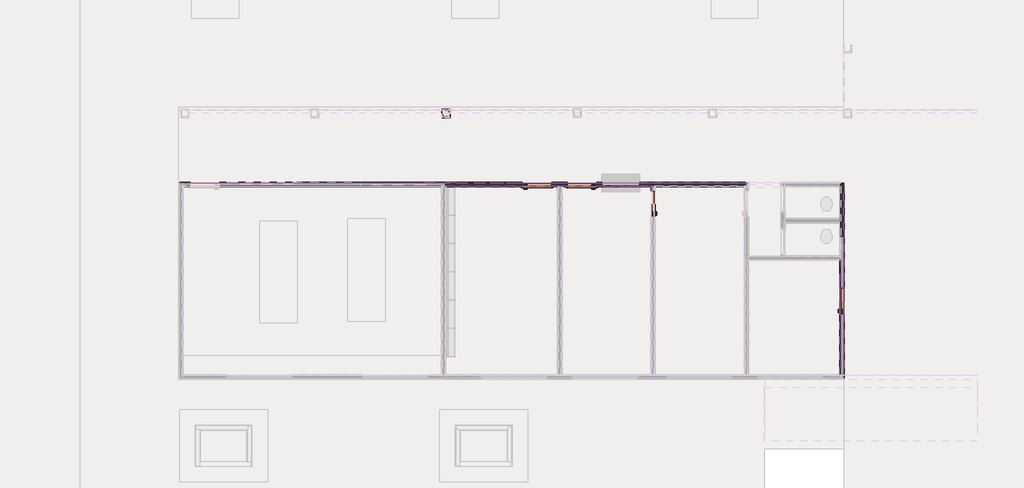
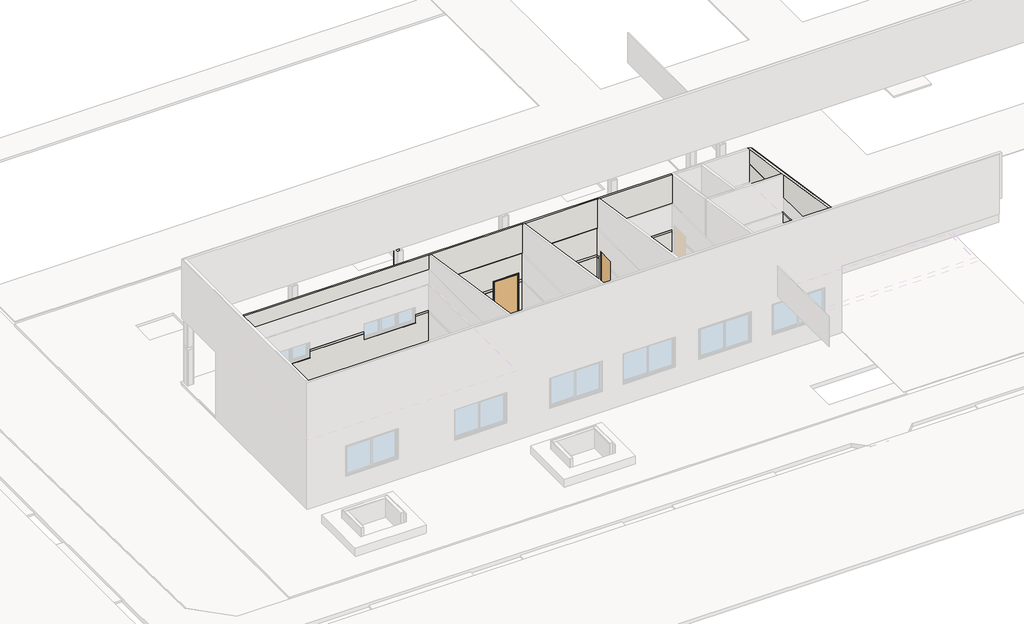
# One storey, part 4 of 28: 25 walls, 8 doors.
"""IFC4 building model written with IfcOpenShell, lengths in millimetres."""

from ifc_helpers import new_model, si_unit, frame, origin, place, context, project, spatial, polyline, outline, extrude, faceted_brep, transform, mapped, element, save
from components import door_29174598, door_95b59213, door_f751b543, door_9ce70d66, pf15_l82cm_5bfc7586, pf15_l82cm_686caa18, pf16_l92cm_bd960443, pf16_l92cm_e792644b

model = new_model("IFC4")

# Units and contexts
model_context = context("Model", 3, world=origin())
ifc_project = project(units=[si_unit("LENGTHUNIT", "METRE", prefix="MILLI")], contexts=[model_context])

# Site, building, storey
site = spatial("IfcSite", under=ifc_project)
building = spatial("IfcBuilding", under=site)
storey = spatial("IfcBuildingStorey", under=building, Name="Térreo", Elevation=0.0)

# Doors
placement = place(None, origin())
door_shape = door_29174598(model_context)
element("IfcDoor", 1, ObjectType="FDE_SO_Soleiras1 : SO14_SoleiraRampadaDesnívelAté2cm_L=14cm_Cimentado 2", at=placement, inside=storey, context=model_context, shape_type="MappedRepresentation", body=[
    mapped(door_shape, transform((-34023.4091269, 6887.0, 0.0), x_axis=(0.0, 1.0, 0.0), y_axis=(-1.0, 0.0, 0.0), z_axis=(0.0, 0.0, 1.0))),
])
door_2_shape = door_95b59213(model_context)
element("IfcDoor", 2, ObjectType="FDE_SO_Soleiras1 : SO14_SoleiraRampadaDesnívelAté2cm_L=14cm_Cimentado 2", at=placement, inside=storey, context=model_context, shape_type="MappedRepresentation", body=[
    mapped(door_2_shape, transform((-40043.4091269, 9983.0, 0.0), x_axis=(0.0, 1.0, 0.0), y_axis=(-1.0, 0.0, 0.0), z_axis=(0.0, 0.0, 1.0))),
])
door_3_shape = door_f751b543(model_context)
element("IfcDoor", 3, ObjectType="FDE_SO_Soleiras1 : SO14_SoleiraRampadaDesnívelAté2cm_L=14cm_Cimentado 2", at=placement, inside=storey, context=model_context, shape_type="MappedRepresentation", body=[
    mapped(door_3_shape, transform((-42296.4091269, 10567.3195082, 0.0), x_axis=(-1.0, 0.0, 0.0), y_axis=(0.0, -1.0, 0.0), z_axis=(0.0, 0.0, 1.0))),
])
door_4_shape = door_9ce70d66(model_context)
element("IfcDoor", 4, ObjectType="FDE_SO_Soleiras1 : SO14_SoleiraRampadaDesnívelAté2cm_L=14cm_Cimentado 2", at=placement, inside=storey, context=model_context, shape_type="MappedRepresentation", body=[
    mapped(door_4_shape, transform((-43730.4091269, 10567.3195082, 0.0), x_axis=(1.0, 0.0, 0.0), y_axis=(0.0, 1.0, 0.0), z_axis=(0.0, 0.0, 1.0))),
])
pf15_l82cm_shape = pf15_l82cm_5bfc7586(model_context)
element("IfcDoor", 5, ObjectType="FDE_PF15_PF16_PF17_PortaemChapadeFerro : PF15_L82cm", at=placement, inside=storey, context=model_context, shape_type="MappedRepresentation", body=[
    mapped(pf15_l82cm_shape, transform((-34028.4091269, 6887.0, 0.0), x_axis=(0.0, 1.0, 0.0), y_axis=(-1.0, 0.0, 0.0), z_axis=(0.0, 0.0, 1.0))),
])
pf15_l82cm_2_shape = pf15_l82cm_686caa18(model_context)
element("IfcDoor", 6, ObjectType="FDE_PF15_PF16_PF17_PortaemChapadeFerro : PF15_L82cm", at=placement, inside=storey, context=model_context, shape_type="MappedRepresentation", body=[
    mapped(pf15_l82cm_2_shape, transform((-40038.4091269, 9983.0, 0.0), x_axis=(0.0, 1.0, 0.0), y_axis=(-1.0, 0.0, 0.0), z_axis=(0.0, 0.0, 1.0))),
])
pf16_l92cm_shape = pf16_l92cm_bd960443(model_context)
element("IfcDoor", 7, ObjectType="FDE_PF15_PF16_PF17_PortaemChapadeFerro : PF16_L92cm", at=placement, inside=storey, context=model_context, shape_type="MappedRepresentation", body=[
    mapped(pf16_l92cm_shape, transform((-42296.4091269, 10532.3195082, 0.0), x_axis=(-1.0, 0.0, 0.0), y_axis=(0.0, -1.0, 0.0), z_axis=(0.0, 0.0, 1.0))),
])
pf16_l92cm_2_shape = pf16_l92cm_e792644b(model_context)
element("IfcDoor", 8, ObjectType="FDE_PF15_PF16_PF17_PortaemChapadeFerro : PF16_L92cm", at=placement, inside=storey, context=model_context, shape_type="MappedRepresentation", body=[
    mapped(pf16_l92cm_2_shape, transform((-43730.4091269, 10532.3195082, 0.0), x_axis=(1.0, 0.0, 0.0), y_axis=(0.0, 1.0, 0.0), z_axis=(0.0, 0.0, 1.0))),
])

# Walls
element("IfcWall", 9, ObjectType="FDE_S712_AlvenariadeTijoloCerâmico/Baiano_Alvenaria_9cm - Existente", at=placement, inside=storey, context=model_context, shape_type="Brep", body=[
    faceted_brep([(-37113.4091269, 10547.3195082, 0.0), (-37113.4091269, 10547.3195082, 220.0), (-37113.4091269, 10547.3195082, 1731.0528047), (-37113.4091269, 10547.3195082, 1824.9435125), (-37113.4091269, 10547.3195082, 4103.4020738), (-39993.4091269, 10547.3195082, 4103.4020738), (-40083.4091269, 10547.3195082, 4103.4020738), (-42963.4091269, 10547.3195082, 4103.4020738), (-43053.4091269, 10547.3195082, 4103.4020738), (-55003.4091269, 10547.3195082, 4103.4020738), (-55003.4091269, 10547.3195082, 1731.0528047), (-55003.4091269, 10547.3195082, 220.0), (-55003.4091269, 10547.3195082, 0.0), (-54752.4091269, 10547.3195082, 0.0), (-54752.4091269, 10547.3195082, 220.0), (-54752.4091269, 10547.3195082, 1731.0528047), (-54752.4091269, 10547.3195082, 2112.0), (-53818.4091269, 10547.3195082, 2112.0), (-53818.4091269, 10547.3195082, 1824.9435125), (-53818.4091269, 10547.3195082, 1731.0528047), (-53818.4091269, 10547.3195082, 220.0), (-53818.4091269, 10547.3195082, 0.0), (-44197.4091269, 10547.3195082, 0.0), (-44197.4091269, 10547.3195082, 220.0), (-44197.4091269, 10547.3195082, 1731.0528047), (-44197.4091269, 10547.3195082, 1824.9435125), (-44197.4091269, 10547.3195082, 2112.0), (-43263.4091269, 10547.3195082, 2112.0), (-43263.4091269, 10547.3195082, 1824.9435125), (-43263.4091269, 10547.3195082, 1731.0528047), (-43263.4091269, 10547.3195082, 220.0), (-43263.4091269, 10547.3195082, 0.0), (-43053.4091269, 10547.3195082, 0.0), (-42963.4091269, 10547.3195082, 0.0), (-42763.4091269, 10547.3195082, 0.0), (-42763.4091269, 10547.3195082, 220.0), (-42763.4091269, 10547.3195082, 1731.0528047), (-42763.4091269, 10547.3195082, 1824.9435125), (-42763.4091269, 10547.3195082, 2112.0), (-41829.4091269, 10547.3195082, 2112.0), (-41829.4091269, 10547.3195082, 1824.9435125), (-41829.4091269, 10547.3195082, 1731.0528047), (-41829.4091269, 10547.3195082, 220.0), (-41829.4091269, 10547.3195082, 0.0), (-40083.4091269, 10547.3195082, 0.0), (-39993.4091269, 10547.3195082, 0.0), (-40463.4091284, 10547.3195082, 2112.0), (-40463.4091284, 10547.3195082, 1190.0), (-41663.4091276, 10547.3195082, 1190.0), (-41663.4091276, 10547.3195082, 2112.0), (-49348.4091269, 10547.3195082, 1465.0), (-49348.4091269, 10547.3195082, 1731.0528047), (-49348.4091269, 10547.3195082, 1824.9435125), (-49348.4091269, 10547.3195082, 2135.0), (-47278.4091269, 10547.3195082, 2135.0), (-47278.4091269, 10547.3195082, 1824.9435125), (-47278.4091269, 10547.3195082, 1731.0528047), (-47278.4091269, 10547.3195082, 1465.0), (-51458.4091269, 10547.3195082, 2135.0), (-51458.4091269, 10547.3195082, 1824.9435125), (-51458.4091269, 10547.3195082, 1731.0528047), (-51458.4091269, 10547.3195082, 1465.0), (-53528.4091269, 10547.3195082, 1465.0), (-53528.4091269, 10547.3195082, 1731.0528047), (-53528.4091269, 10547.3195082, 1824.9435125), (-53528.4091269, 10547.3195082, 2135.0), (-37113.4091269, 10637.3195082, 4089.9020738), (-37113.4091269, 10637.3195082, 3944.0), (-37113.4091269, 10637.3195082, 1824.9435125), (-37113.4091269, 10637.3195082, 1731.0528047), (-37113.4091269, 10637.3195082, 220.0), (-37113.4091269, 10637.3195082, 0.0), (-41829.4091269, 10637.3195082, 0.0), (-41829.4091269, 10637.3195082, 220.0), (-41829.4091269, 10637.3195082, 1731.0528047), (-41829.4091269, 10637.3195082, 1824.9435125), (-41829.4091269, 10637.3195082, 2112.0), (-42763.4091269, 10637.3195082, 2112.0), (-42763.4091269, 10637.3195082, 1824.9435125), (-42763.4091269, 10637.3195082, 1731.0528047), (-42763.4091269, 10637.3195082, 220.0), (-42763.4091269, 10637.3195082, 0.0), (-43263.4091269, 10637.3195082, 0.0), (-43263.4091269, 10637.3195082, 220.0), (-43263.4091269, 10637.3195082, 1731.0528047), (-43263.4091269, 10637.3195082, 1824.9435125), (-43263.4091269, 10637.3195082, 2112.0), (-44197.4091269, 10637.3195082, 2112.0), (-44197.4091269, 10637.3195082, 1824.9435125), (-44197.4091269, 10637.3195082, 1731.0528047), (-44197.4091269, 10637.3195082, 220.0), (-44197.4091269, 10637.3195082, 0.0), (-53818.4091269, 10637.3195082, 0.0), (-53818.4091269, 10637.3195082, 220.0), (-53818.4091269, 10637.3195082, 1731.0528047), (-53818.4091269, 10637.3195082, 1824.9435125), (-53818.4091269, 10637.3195082, 2112.0), (-54752.4091269, 10637.3195082, 2112.0), (-54752.4091269, 10637.3195082, 1824.9435125), (-54752.4091269, 10637.3195082, 1731.0528047), (-54752.4091269, 10637.3195082, 220.0), (-54752.4091269, 10637.3195082, 0.0), (-55003.4091269, 10637.3195082, 0.0), (-55003.4091269, 10637.3195082, 1824.9435125), (-55003.4091269, 10637.3195082, 3944.0), (-55003.4091269, 10637.3195082, 4089.9020738), (-51458.4091269, 10637.3195082, 1465.0), (-51458.4091269, 10637.3195082, 1731.0528047), (-51458.4091269, 10637.3195082, 1824.9435125), (-51458.4091269, 10637.3195082, 2135.0), (-53528.4091269, 10637.3195082, 2135.0), (-53528.4091269, 10637.3195082, 1824.9435125), (-53528.4091269, 10637.3195082, 1731.0528047), (-53528.4091269, 10637.3195082, 1465.0), (-40463.4091284, 10637.3195082, 1190.0), (-40463.4091284, 10637.3195082, 1731.0528047), (-40463.4091284, 10637.3195082, 1824.9435125), (-40463.4091284, 10637.3195082, 2112.0), (-41663.4091276, 10637.3195082, 2112.0), (-41663.4091276, 10637.3195082, 1824.9435125), (-41663.4091276, 10637.3195082, 1731.0528047), (-41663.4091276, 10637.3195082, 1190.0), (-49348.4091269, 10637.3195082, 2135.0), (-49348.4091269, 10637.3195082, 1824.9435125), (-49348.4091269, 10637.3195082, 1731.0528047), (-49348.4091269, 10637.3195082, 1465.0), (-47278.4091269, 10637.3195082, 1465.0), (-47278.4091269, 10637.3195082, 1731.0528047), (-47278.4091269, 10637.3195082, 1824.9435125), (-47278.4091269, 10637.3195082, 2135.0), (-37113.4091269, 10631.3195082, 4090.8020738)], [[[0, 1, 2, 3, 4, 5, 6, 7, 8, 9, 10, 11, 12, 13, 14, 15, 16, 17, 18, 19, 20, 21, 22, 23, 24, 25, 26, 27, 28, 29, 30, 31, 32, 33, 34, 35, 36, 37, 38, 39, 40, 41, 42, 43, 44, 45], [46, 47, 48, 49], [50, 51, 52, 53, 54, 55, 56, 57], [58, 59, 60, 61, 62, 63, 64, 65]], [[66, 67, 68, 69, 70, 71, 72, 73, 74, 75, 76, 77, 78, 79, 80, 81, 82, 83, 84, 85, 86, 87, 88, 89, 90, 91, 92, 93, 94, 95, 96, 97, 98, 99, 100, 101, 102, 103, 104, 105], [106, 107, 108, 109, 110, 111, 112, 113], [114, 115, 116, 117, 118, 119, 120, 121], [122, 123, 124, 125, 126, 127, 128, 129]], [[4, 3, 2, 1, 0, 71, 70, 69, 68, 67, 66, 130]], [[9, 8, 7, 6, 5, 4, 130, 66, 105]], [[97, 16, 15, 14, 13, 101, 100, 99, 98]], [[16, 97, 96, 17]], [[17, 96, 95, 94, 93, 92, 21, 20, 19, 18]], [[27, 86, 85, 84, 83, 82, 31, 30, 29, 28]], [[86, 27, 26, 87]], [[87, 26, 25, 24, 23, 22, 91, 90, 89, 88]], [[77, 38, 37, 36, 35, 34, 81, 80, 79, 78]], [[38, 77, 76, 39]], [[39, 76, 75, 74, 73, 72, 43, 42, 41, 40]], [[106, 61, 60, 59, 58, 109, 108, 107]], [[109, 58, 65, 110]], [[110, 65, 64, 63, 62, 113, 112, 111]], [[61, 106, 113, 62]], [[13, 12, 102, 101]], [[22, 21, 92, 91]], [[34, 33, 32, 31, 82, 81]], [[0, 45, 44, 43, 72, 71]], [[47, 46, 117, 116, 115, 114]], [[48, 47, 114, 121]], [[49, 48, 121, 120, 119, 118]], [[46, 49, 118, 117]], [[50, 125, 124, 123, 122, 53, 52, 51]], [[53, 122, 129, 54]], [[54, 129, 128, 127, 126, 57, 56, 55]], [[125, 50, 57, 126]], [[102, 12, 11, 10, 9, 105, 104, 103]]]),
])
element("IfcWall", 10, ObjectType="FDE_S712_AlvenariadeTijoloCerâmico/Baiano_Alvenaria_9cm - Existente", at=placement, inside=storey, context=model_context, shape_type="Brep", body=[
    faceted_brep([(-34073.4091269, 4520.0, 0.0), (-34073.4091269, 4520.0, 220.0), (-34073.4091269, 4520.0, 1731.0528047), (-34073.4091269, 4520.0, 5007.5), (-34073.4091269, 8209.2493611, 4454.1125958), (-34073.4091269, 8299.2493611, 4440.6125958), (-34073.4091269, 10541.3195082, 4104.3020738), (-34073.4091269, 10631.3195082, 4090.8020738), (-34073.4091269, 10631.3195082, 0.0), (-34073.4091269, 10541.3195082, 0.0), (-34073.4091269, 9514.6246806, 0.0), (-34073.4091269, 9484.6246806, 0.0), (-34073.4091269, 9394.6246806, 0.0), (-34073.4091269, 8299.2493611, 0.0), (-34073.4091269, 8209.2493611, 0.0), (-34073.4091269, 7304.0, 0.0), (-34073.4091269, 7304.0, 220.0), (-34073.4091269, 7304.0, 1731.0528047), (-34073.4091269, 7304.0, 1824.9435125), (-34073.4091269, 7304.0, 2112.0), (-34073.4091269, 6470.0, 2112.0), (-34073.4091269, 6470.0, 1824.9435125), (-34073.4091269, 6470.0, 1731.0528047), (-34073.4091269, 6470.0, 220.0), (-34073.4091269, 6470.0, 0.0), (-33983.4091269, 4520.0000015, 5007.4999998), (-33983.4091269, 4520.0000007, 2530.0), (-33983.4091269, 4520.0000005, 1731.0528047), (-33983.4091269, 4520.0, 0.0), (-33983.4091269, 6470.0, 0.0), (-33983.4091269, 6470.0, 1731.0528047), (-33983.4091269, 6470.0, 1824.9435125), (-33983.4091269, 6470.0, 2112.0), (-33983.4091269, 7304.0, 2112.0), (-33983.4091269, 7304.0, 1824.9435125), (-33983.4091269, 7304.0, 1731.0528047), (-33983.4091269, 7304.0, 0.0), (-33983.4091269, 10541.3195082, 0.0), (-33983.4091269, 10631.3195082, 0.0), (-33983.4091269, 10631.3195082, 4090.8020738), (-33983.4091269, 10541.3195082, 4104.3020738), (-33983.4091269, 4541.0, 5004.35)], [[[0, 1, 2, 3, 4, 5, 6, 7, 8, 9, 10, 11, 12, 13, 14, 15, 16, 17, 18, 19, 20, 21, 22, 23, 24]], [[25, 26, 27, 28, 29, 30, 31, 32, 33, 34, 35, 36, 37, 38, 39, 40, 41]], [[28, 0, 24, 29]], [[8, 38, 37, 36, 15, 14, 13, 12, 11, 10, 9]], [[0, 28, 27, 26, 25, 3, 2, 1]], [[39, 7, 6, 5, 4, 3, 25, 41, 40]], [[33, 19, 18, 17, 16, 15, 36, 35, 34]], [[19, 33, 32, 20]], [[20, 32, 31, 30, 29, 24, 23, 22, 21]], [[38, 8, 7, 39]]]),
])
element("IfcWall", 11, ObjectType="Revestimento Cerâmico 10x10cm", at=placement, inside=storey, context=model_context, shape_type="Brep", body=[
    faceted_brep([(-55093.4091269, 10637.3195082, 1731.0528047), (-55093.4091269, 10637.3195082, 220.0), (-54752.4091269, 10637.3195082, 220.0), (-54752.4091269, 10637.3195082, 1731.0528047), (-55093.4091269, 10667.3195082, 220.0), (-55093.4091269, 10667.3195082, 1731.0528047), (-54752.4091269, 10667.3195082, 1731.0528047), (-54752.4091269, 10667.3195082, 220.0), (-55093.4091269, 10652.3195082, 220.0)], [[[0, 1, 2, 3]], [[4, 5, 6, 7]], [[1, 0, 5, 4, 8]], [[1, 8, 4, 7, 2]], [[5, 0, 3, 6]], [[3, 2, 7, 6]]]),
    faceted_brep([(-37113.4091269, 10637.3195082, 1731.0528047), (-40463.4091284, 10637.3195082, 1731.0528047), (-40463.4091284, 10637.3195082, 1190.0), (-41663.4091276, 10637.3195082, 1190.0), (-41663.4091276, 10637.3195082, 1731.0528047), (-41829.4091269, 10637.3195082, 1731.0528047), (-41829.4091269, 10637.3195082, 220.0), (-37113.4091269, 10637.3195082, 220.0), (-40463.4091284, 10667.3195082, 1731.0528047), (-37113.4091269, 10667.3195082, 1731.0528047), (-37113.4091269, 10667.3195082, 220.0), (-41829.4091269, 10667.3195082, 220.0), (-41829.4091269, 10667.3195082, 1731.0528047), (-41663.4091276, 10667.3195082, 1731.0528047), (-41663.4091276, 10667.3195082, 1190.0), (-40463.4091284, 10667.3195082, 1190.0)], [[[0, 1, 2, 3, 4, 5, 6, 7]], [[8, 9, 10, 11, 12, 13, 14, 15]], [[6, 5, 12, 11]], [[6, 11, 10, 7]], [[1, 0, 9, 8]], [[2, 1, 8, 15]], [[3, 2, 15, 14]], [[4, 3, 14, 13]], [[4, 13, 12, 5]], [[0, 7, 10, 9]]]),
    faceted_brep([(-43263.4091269, 10637.3195082, 1731.0528047), (-43263.4091269, 10637.3195082, 220.0), (-42763.4091269, 10637.3195082, 220.0), (-42763.4091269, 10637.3195082, 1731.0528047), (-43263.4091269, 10667.3195082, 220.0), (-43263.4091269, 10667.3195082, 1731.0528047), (-42763.4091269, 10667.3195082, 1731.0528047), (-42763.4091269, 10667.3195082, 220.0)], [[[0, 1, 2, 3]], [[4, 5, 6, 7]], [[1, 0, 5, 4]], [[3, 2, 7, 6]], [[1, 4, 7, 2]], [[5, 0, 3, 6]]]),
    faceted_brep([(-44197.4091269, 10637.3195082, 220.0), (-44197.4091269, 10637.3195082, 1731.0528047), (-44207.4091269, 10637.3195082, 1731.0528047), (-45943.4091269, 10637.3195082, 1731.0528047), (-47278.4091269, 10637.3195082, 1731.0528047), (-47278.4091269, 10637.3195082, 1465.0), (-49348.4091269, 10637.3195082, 1465.0), (-49348.4091269, 10637.3195082, 1731.0528047), (-51458.4091269, 10637.3195082, 1731.0528047), (-51458.4091269, 10637.3195082, 1465.0), (-53528.4091269, 10637.3195082, 1465.0), (-53528.4091269, 10637.3195082, 1731.0528047), (-53818.4091269, 10637.3195082, 1731.0528047), (-53818.4091269, 10637.3195082, 220.0), (-44197.4091269, 10667.3195082, 1731.0528047), (-44197.4091269, 10667.3195082, 220.0), (-53818.4091269, 10667.3195082, 220.0), (-53818.4091269, 10667.3195082, 1731.0528047), (-53528.4091269, 10667.3195082, 1731.0528047), (-53528.4091269, 10667.3195082, 1465.0), (-51458.4091269, 10667.3195082, 1465.0), (-51458.4091269, 10667.3195082, 1731.0528047), (-49348.4091269, 10667.3195082, 1731.0528047), (-49348.4091269, 10667.3195082, 1465.0), (-47278.4091269, 10667.3195082, 1465.0), (-47278.4091269, 10667.3195082, 1731.0528047)], [[[0, 1, 2, 3, 4, 5, 6, 7, 8, 9, 10, 11, 12, 13]], [[14, 15, 16, 17, 18, 19, 20, 21, 22, 23, 24, 25]], [[1, 0, 15, 14]], [[20, 9, 8, 21]], [[10, 19, 18, 11]], [[9, 20, 19, 10]], [[6, 23, 22, 7]], [[24, 5, 4, 25]], [[23, 6, 5, 24]], [[15, 0, 13, 16]], [[1, 14, 25, 4, 3, 2]], [[21, 8, 7, 22]], [[11, 18, 17, 12]], [[13, 12, 17, 16]]]),
])
element("IfcWall", 12, ObjectType="Pardes Externas_Pintura Acrílica Branco Neve", at=placement, inside=storey, context=model_context, shape_type="Brep", body=[
    faceted_brep([(-37002.4091269, 10652.3195082, 1824.9435125), (-37023.4091269, 10652.3195082, 1824.9435125), (-37113.4091269, 10652.3195082, 1824.9435125), (-40463.4091284, 10652.3195082, 1824.9435125), (-40463.4091284, 10652.3195082, 2112.0), (-41663.4091276, 10652.3195082, 2112.0), (-41663.4091276, 10652.3195082, 1824.9435125), (-41829.4091269, 10652.3195082, 1824.9435125), (-41829.4091269, 10652.3195082, 2112.0), (-42763.4091269, 10652.3195082, 2112.0), (-42763.4091269, 10652.3195082, 1824.9435125), (-43263.4091269, 10652.3195082, 1824.9435125), (-43263.4091269, 10652.3195082, 2112.0), (-44197.4091269, 10652.3195082, 2112.0), (-44197.4091269, 10652.3195082, 1824.9435125), (-47278.4091269, 10652.3195082, 1824.9435125), (-47278.4091269, 10652.3195082, 2135.0), (-49348.4091269, 10652.3195082, 2135.0), (-49348.4091269, 10652.3195082, 1824.9435125), (-51458.4091269, 10652.3195082, 1824.9435125), (-51458.4091269, 10652.3195082, 2135.0), (-53528.4091269, 10652.3195082, 2135.0), (-53528.4091269, 10652.3195082, 1824.9435125), (-53818.4091269, 10652.3195082, 1824.9435125), (-53818.4091269, 10652.3195082, 2112.0), (-54752.4091269, 10652.3195082, 2112.0), (-54752.4091269, 10652.3195082, 1824.9435125), (-55093.4091269, 10652.3195082, 1824.9435125), (-55093.4091269, 10652.3195082, 2900.0), (-55093.4091269, 10652.3195082, 3944.0), (-37002.4091269, 10652.3195082, 3944.0), (-55093.4091269, 10631.3195082, 3944.0), (-55093.4091269, 10631.3195082, 1824.9435125), (-55003.4091269, 10631.3195082, 1824.9435125), (-55003.4091269, 10631.3195082, 3944.0), (-37002.4091269, 10631.3195082, 1824.9435125), (-37002.4091269, 10631.3195082, 3944.0), (-37023.4091269, 10631.3195082, 3944.0), (-37113.4091269, 10631.3195082, 3944.0), (-37113.4091269, 10631.3195082, 1824.9435125), (-37023.4091269, 10631.3195082, 1824.9435125), (-55003.4091269, 10637.3195082, 3944.0), (-55003.4091269, 10637.3195082, 1824.9435125), (-54752.4091269, 10637.3195082, 1824.9435125), (-54752.4091269, 10637.3195082, 1840.5067599), (-54752.4091269, 10637.3195082, 2112.0), (-53818.4091269, 10637.3195082, 2112.0), (-53818.4091269, 10637.3195082, 1824.9435125), (-53528.4091269, 10637.3195082, 1824.9435125), (-53528.4091269, 10637.3195082, 2135.0), (-51458.4091269, 10637.3195082, 2135.0), (-51458.4091269, 10637.3195082, 1824.9435125), (-49348.4091269, 10637.3195082, 1824.9435125), (-49348.4091269, 10637.3195082, 2135.0), (-47278.4091269, 10637.3195082, 2135.0), (-47278.4091269, 10637.3195082, 1824.9435125), (-45943.4091269, 10637.3195082, 1824.9435125), (-44207.4091269, 10637.3195082, 1824.9435125), (-44197.4091269, 10637.3195082, 1824.9435125), (-44197.4091269, 10637.3195082, 2112.0), (-43263.4091269, 10637.3195082, 2112.0), (-43263.4091269, 10637.3195082, 1824.9435125), (-42763.4091269, 10637.3195082, 1824.9435125), (-42763.4091269, 10637.3195082, 2112.0), (-41829.4091269, 10637.3195082, 2112.0), (-41829.4091269, 10637.3195082, 1824.9435125), (-41663.4091276, 10637.3195082, 1824.9435125), (-41663.4091276, 10637.3195082, 2112.0), (-40463.4091284, 10637.3195082, 2112.0), (-40463.4091284, 10637.3195082, 1824.9435125), (-37113.4091269, 10637.3195082, 1824.9435125), (-37113.4091269, 10637.3195082, 3944.0), (-55093.4091269, 10637.3195082, 1824.9435125)], [[[0, 1, 2, 3, 4, 5, 6, 7, 8, 9, 10, 11, 12, 13, 14, 15, 16, 17, 18, 19, 20, 21, 22, 23, 24, 25, 26, 27, 28, 29, 30]], [[31, 32, 33, 34]], [[35, 36, 37, 38, 39, 40]], [[41, 42, 43, 44, 45, 46, 47, 48, 49, 50, 51, 52, 53, 54, 55, 56, 57, 58, 59, 60, 61, 62, 63, 64, 65, 66, 67, 68, 69, 70, 71]], [[26, 25, 45, 44, 43]], [[25, 24, 46, 45]], [[24, 23, 47, 46]], [[12, 11, 61, 60]], [[13, 12, 60, 59]], [[14, 13, 59, 58]], [[10, 9, 63, 62]], [[9, 8, 64, 63]], [[8, 7, 65, 64]], [[20, 19, 51, 50]], [[21, 20, 50, 49]], [[22, 21, 49, 48]], [[18, 17, 53, 52]], [[17, 16, 54, 53]], [[16, 15, 55, 54]], [[3, 2, 1, 0, 35, 40, 39, 70, 69]], [[29, 28, 27, 72, 32, 31]], [[30, 29, 31, 34, 41, 71, 38, 37, 36]], [[4, 3, 69, 68]], [[5, 4, 68, 67]], [[6, 5, 67, 66]], [[11, 10, 62, 61]], [[7, 6, 66, 65]], [[23, 22, 48, 47]], [[19, 18, 52, 51]], [[15, 14, 58, 57, 56, 55]], [[32, 72, 27, 26, 43, 42, 33]], [[71, 70, 39, 38]], [[30, 36, 35, 0]], [[42, 41, 34, 33]]]),
])
element("IfcWall", 13, ObjectType="Pardes Externas_Pintura Acrílica Branco Neve", at=placement, inside=storey, context=model_context, shape_type="Brep", body=[
    faceted_brep([(-33983.4091269, 4520.0000005, 1824.9435125), (-33983.4091269, 4520.0000005, 5007.4999999), (-33983.4091269, 10541.3195082, 4104.3020738), (-33983.4091269, 10541.3195082, 1824.9435125), (-33983.4091269, 7304.0, 1824.9435125), (-33983.4091269, 7304.0, 2112.0), (-33983.4091269, 6470.0, 2112.0), (-33983.4091269, 6470.0, 1824.9435125), (-33962.4091269, 4520.0000015, 5007.4999998), (-33962.4091269, 4520.0000005, 1824.9435125), (-33962.4091269, 6470.0, 1824.9435125), (-33962.4091269, 6470.0, 2112.0), (-33962.4091269, 7304.0, 2112.0), (-33962.4091269, 7304.0, 1824.9435125), (-33962.4091269, 10541.3195082, 1824.9435125), (-33962.4091269, 10541.3195082, 4104.3020738)], [[[0, 1, 2, 3, 4, 5, 6, 7]], [[8, 9, 10, 11, 12, 13, 14, 15]], [[9, 0, 7, 10]], [[3, 14, 13, 4]], [[0, 9, 8, 1]], [[2, 1, 8, 15]], [[12, 5, 4, 13]], [[5, 12, 11, 6]], [[6, 11, 10, 7]], [[3, 2, 15, 14]]]),
])
element("IfcWall", 14, ObjectType="Revestimento Cerâmico 10x10cm", at=placement, inside=storey, context=model_context, shape_type="Brep", body=[
    faceted_brep([(-33953.4091269, 4430.0000017, 1731.0528047), (-33953.4091269, 4430.0000017, 0.0), (-33953.4091269, 6470.0, 0.0), (-33953.4091269, 6470.0, 1731.0528047), (-33953.4091269, 4520.0000005, 1731.0528047), (-33983.4091269, 4430.0000017, 0.0), (-33983.4091269, 4430.0000017, 1731.0528047), (-33983.4091269, 4520.0000005, 1731.0528047), (-33983.4091269, 6470.0, 1731.0528047), (-33983.4091269, 6470.0, 0.0), (-33983.4091269, 4520.0000005, 0.0)], [[[0, 1, 2, 3, 4]], [[5, 6, 7, 8, 9, 10]], [[1, 5, 10, 9, 2]], [[6, 0, 4, 3, 8, 7]], [[1, 0, 6, 5]], [[3, 2, 9, 8]]]),
    faceted_brep([(-33953.4091269, 10541.3195082, 0.0), (-33953.4091269, 10541.3195082, 1731.0528047), (-33953.4091269, 7304.0, 1731.0528047), (-33953.4091269, 7304.0, 0.0), (-33983.4091269, 10541.3195082, 1731.0528047), (-33983.4091269, 10541.3195082, 0.0), (-33983.4091269, 7304.0, 0.0), (-33983.4091269, 7304.0, 1731.0528047)], [[[0, 1, 2, 3]], [[4, 5, 6, 7]], [[5, 0, 3, 6]], [[1, 4, 7, 2]], [[3, 2, 7, 6]], [[1, 0, 5, 4]]]),
])
element("IfcWall", 15, ObjectType="Faixa - Revestimento Cerâmico Verde Folha 10x10cm", at=placement, inside=storey, context=model_context, shape_type="Brep", body=[
    faceted_brep([(-33983.4091269, 4520.0000005, 1731.0528047), (-33983.4091269, 4520.0000005, 1824.9435125), (-33983.4091269, 6470.0, 1824.9435125), (-33983.4091269, 6470.0, 1731.0528047), (-33953.4091269, 4520.0000005, 1824.9435125), (-33953.4091269, 4520.0000005, 1731.0528047), (-33953.4091269, 6470.0, 1731.0528047), (-33953.4091269, 6470.0, 1824.9435125), (-33962.4091269, 4520.0000005, 1824.9435125)], [[[0, 1, 2, 3]], [[4, 5, 6, 7]], [[5, 0, 3, 6]], [[1, 8, 4, 7, 2]], [[1, 0, 5, 4, 8]], [[3, 2, 7, 6]]]),
    faceted_brep([(-33983.4091269, 10541.3195082, 1824.9435125), (-33983.4091269, 10541.3195082, 1731.0528047), (-33983.4091269, 7304.0, 1731.0528047), (-33983.4091269, 7304.0, 1824.9435125), (-33953.4091269, 10541.3195082, 1731.0528047), (-33953.4091269, 10541.3195082, 1824.9435125), (-33953.4091269, 7304.0, 1824.9435125), (-33953.4091269, 7304.0, 1731.0528047), (-33962.4091269, 10541.3195082, 1824.9435125)], [[[0, 1, 2, 3]], [[4, 5, 6, 7]], [[1, 4, 7, 2]], [[5, 8, 0, 3, 6]], [[3, 2, 7, 6]], [[1, 0, 8, 5, 4]]]),
])
element("IfcWall", 16, ObjectType="Pardes Externas_Pintura Acrílica Branco Neve", at=placement, inside=storey, context=model_context, shape_type="Brep", body=[
    faceted_brep([(-46744.4091269, 12950.0, 1794.0), (-46723.4091269, 12950.0, 1794.0), (-46523.4091269, 12950.0, 1794.0), (-46502.4091269, 12950.0, 1794.0), (-46502.4091269, 12950.0, 2900.0), (-46523.4091269, 12950.0, 2900.0), (-46723.4091269, 12950.0, 2900.0), (-46744.4091269, 12950.0, 2900.0), (-46744.4091269, 12971.0, 1794.0), (-46744.4091269, 12971.0, 2900.0), (-46502.4091269, 12971.0, 2900.0), (-46502.4091269, 12971.0, 1794.0)], [[[0, 1, 2, 3, 4, 5, 6, 7]], [[8, 9, 10, 11]], [[3, 2, 1, 0, 8, 11]], [[7, 6, 5, 4, 10, 9]], [[0, 7, 9, 8]], [[4, 3, 11, 10]]]),
])
element("IfcWall", 17, ObjectType="Revestimento Cerâmico 10x10cm", at=placement, inside=storey, context=model_context, shape_type="Brep", body=[
    faceted_brep([(-46753.4091269, 12950.0, 194.0), (-46723.4091269, 12950.0, 194.0), (-46523.4091269, 12950.0, 194.0), (-46493.4091269, 12950.0, 194.0), (-46493.4091269, 12950.0, 1694.0), (-46523.4091269, 12950.0, 1694.0), (-46723.4091269, 12950.0, 1694.0), (-46753.4091269, 12950.0, 1694.0), (-46753.4091269, 12980.0, 194.0), (-46753.4091269, 12980.0, 1694.0), (-46493.4091269, 12980.0, 1694.0), (-46493.4091269, 12980.0, 194.0)], [[[0, 1, 2, 3, 4, 5, 6, 7]], [[8, 9, 10, 11]], [[3, 2, 1, 0, 8, 11]], [[7, 6, 5, 4, 10, 9]], [[0, 7, 9, 8]], [[4, 3, 11, 10]]]),
])
element("IfcWall", 18, ObjectType="Revestimento Cerâmico 10x10cm", at=placement, inside=storey, context=model_context, shape_type="Brep", body=[
    faceted_brep([(-46723.4091269, 12720.0, 194.0), (-46723.4091269, 12750.0, 194.0), (-46723.4091269, 12950.0, 194.0), (-46723.4091269, 12950.0, 1694.0), (-46723.4091269, 12750.0, 1694.0), (-46723.4091269, 12720.0, 1694.0), (-46753.4091269, 12720.0, 194.0), (-46753.4091269, 12720.0, 1694.0), (-46753.4091269, 12950.0, 1694.0), (-46753.4091269, 12950.0, 194.0)], [[[0, 1, 2, 3, 4, 5]], [[6, 7, 8, 9]], [[2, 1, 0, 6, 9]], [[5, 4, 3, 8, 7]], [[3, 2, 9, 8]], [[0, 5, 7, 6]]]),
])
element("IfcWall", 19, ObjectType="Revestimento Cerâmico 10x10cm", at=placement, inside=storey, context=model_context, shape_type="Brep", body=[
    faceted_brep([(-46523.4091269, 12950.0, 194.0), (-46523.4091269, 12750.0, 194.0), (-46523.4091269, 12720.0, 194.0), (-46523.4091269, 12720.0, 1694.0), (-46523.4091269, 12750.0, 1694.0), (-46523.4091269, 12950.0, 1694.0), (-46493.4091269, 12950.0, 194.0), (-46493.4091269, 12950.0, 1694.0), (-46493.4091269, 12720.0, 1694.0), (-46493.4091269, 12720.0, 194.0)], [[[0, 1, 2, 3, 4, 5]], [[6, 7, 8, 9]], [[2, 1, 0, 6, 9]], [[5, 4, 3, 8, 7]], [[0, 5, 7, 6]], [[3, 2, 9, 8]]]),
])
element("IfcWall", 20, ObjectType="Revestimento Cerâmico 10x10cm", at=placement, inside=storey, context=model_context, shape_type="SweptSolid", body=[
    extrude(outline(polyline([(-46523.4091269, 12720.0), (-46723.4091269, 12720.0), (-46723.4091269, 12750.0), (-46523.4091269, 12750.0), (-46523.4091269, 12720.0)])), frame((0.0, 0.0, 194.0), z_axis=(0.0, 0.0, 1.0), x_axis=(1.0, 0.0, 0.0)), (0.0, 0.0, 1.0), 1500.0),
])
element("IfcWall", 21, ObjectType="Faixa - Revestimento Cerâmico Verde Folha 10x10cm", at=placement, inside=storey, context=model_context, shape_type="Brep", body=[
    faceted_brep([(-46753.4091269, 12950.0, 1694.0), (-46723.4091269, 12950.0, 1694.0), (-46523.4091269, 12950.0, 1694.0), (-46493.4091269, 12950.0, 1694.0), (-46493.4091269, 12950.0, 1794.0), (-46523.4091269, 12950.0, 1794.0), (-46723.4091269, 12950.0, 1794.0), (-46753.4091269, 12950.0, 1794.0), (-46753.4091269, 12980.0, 1694.0), (-46753.4091269, 12980.0, 1794.0), (-46493.4091269, 12980.0, 1794.0), (-46493.4091269, 12980.0, 1694.0)], [[[0, 1, 2, 3, 4, 5, 6, 7]], [[8, 9, 10, 11]], [[3, 2, 1, 0, 8, 11]], [[7, 6, 5, 4, 10, 9]], [[4, 3, 11, 10]], [[0, 7, 9, 8]]]),
])
element("IfcWall", 22, ObjectType="Faixa - Revestimento Cerâmico Verde Folha 10x10cm", at=placement, inside=storey, context=model_context, shape_type="Brep", body=[
    faceted_brep([(-46523.4091269, 12950.0, 1694.0), (-46523.4091269, 12750.0, 1694.0), (-46523.4091269, 12720.0, 1694.0), (-46523.4091269, 12720.0, 1794.0), (-46523.4091269, 12750.0, 1794.0), (-46523.4091269, 12950.0, 1794.0), (-46493.4091269, 12950.0, 1694.0), (-46493.4091269, 12950.0, 1794.0), (-46493.4091269, 12720.0, 1794.0), (-46493.4091269, 12720.0, 1694.0)], [[[0, 1, 2, 3, 4, 5]], [[6, 7, 8, 9]], [[2, 1, 0, 6, 9]], [[5, 4, 3, 8, 7]], [[0, 5, 7, 6]], [[3, 2, 9, 8]]]),
])
element("IfcWall", 23, ObjectType="Faixa - Revestimento Cerâmico Verde Folha 10x10cm", at=placement, inside=storey, context=model_context, shape_type="Brep", body=[
    faceted_brep([(-41829.4091269, 10637.3195082, 1731.0528047), (-41663.4091276, 10637.3195082, 1731.0528047), (-41663.4091276, 10637.3195082, 1824.9435125), (-41829.4091269, 10637.3195082, 1824.9435125), (-41663.4091276, 10667.3195082, 1731.0528047), (-41829.4091269, 10667.3195082, 1731.0528047), (-41829.4091269, 10667.3195082, 1824.9435125), (-41663.4091276, 10667.3195082, 1824.9435125), (-41829.4091269, 10652.3195082, 1824.9435125), (-41663.4091276, 10652.3195082, 1824.9435125)], [[[0, 1, 2, 3]], [[4, 5, 6, 7]], [[0, 3, 8, 6, 5]], [[1, 0, 5, 4]], [[2, 1, 4, 7, 9]], [[2, 9, 7, 6, 8, 3]]]),
    faceted_brep([(-43263.4091269, 10637.3195082, 1824.9435125), (-43263.4091269, 10637.3195082, 1731.0528047), (-42763.4091269, 10637.3195082, 1731.0528047), (-42763.4091269, 10637.3195082, 1824.9435125), (-43263.4091269, 10667.3195082, 1731.0528047), (-43263.4091269, 10667.3195082, 1824.9435125), (-42763.4091269, 10667.3195082, 1824.9435125), (-42763.4091269, 10667.3195082, 1731.0528047), (-43263.4091269, 10652.3195082, 1824.9435125), (-42763.4091269, 10652.3195082, 1824.9435125)], [[[0, 1, 2, 3]], [[4, 5, 6, 7]], [[1, 0, 8, 5, 4]], [[3, 2, 7, 6, 9]], [[1, 4, 7, 2]], [[5, 8, 0, 3, 9, 6]]]),
    faceted_brep([(-37113.4091269, 10637.3195082, 1824.9435125), (-40463.4091284, 10637.3195082, 1824.9435125), (-40463.4091284, 10637.3195082, 1731.0528047), (-37113.4091269, 10637.3195082, 1731.0528047), (-40463.4091284, 10667.3195082, 1824.9435125), (-37113.4091269, 10667.3195082, 1824.9435125), (-37113.4091269, 10667.3195082, 1731.0528047), (-40463.4091284, 10667.3195082, 1731.0528047), (-37113.4091269, 10652.3195082, 1824.9435125), (-40463.4091284, 10652.3195082, 1824.9435125)], [[[0, 1, 2, 3]], [[4, 5, 6, 7]], [[1, 0, 8, 5, 4, 9]], [[2, 1, 9, 4, 7]], [[3, 2, 7, 6]], [[0, 3, 6, 5, 8]]]),
    faceted_brep([(-45943.4091269, 10637.3195082, 1824.9435125), (-45943.4091269, 10637.3195082, 1731.0528047), (-44207.4091269, 10637.3195082, 1731.0528047), (-44207.4091269, 10637.3195082, 1824.9435125), (-45943.4091269, 10667.3195082, 1731.0528047), (-45943.4091269, 10667.3195082, 1824.9435125), (-44207.4091269, 10667.3195082, 1824.9435125), (-44207.4091269, 10667.3195082, 1731.0528047)], [[[0, 1, 2, 3]], [[4, 5, 6, 7]], [[3, 2, 7, 6]], [[2, 1, 4, 7]], [[1, 0, 5, 4]], [[5, 0, 3, 6]]]),
])
element("IfcWall", 24, ObjectType="Pardes Internas_Pintura Acrílica Branco Neve 2", at=placement, inside=storey, context=model_context, shape_type="Brep", body=[
    faceted_brep([(-46622.4091269, 10547.3195082, 2900.0), (-43053.4091269, 10547.3195082, 2900.0), (-43053.4091269, 10547.3195082, 1824.9435125), (-43263.4091269, 10547.3195082, 1824.9435125), (-43263.4091269, 10547.3195082, 2112.0), (-44197.4091269, 10547.3195082, 2112.0), (-44197.4091269, 10547.3195082, 1824.9435125), (-46622.4091269, 10547.3195082, 1824.9435125), (-43053.4091269, 10516.3195082, 2900.0), (-43084.4091269, 10516.3195082, 2900.0), (-46622.4091269, 10516.3195082, 2900.0), (-46622.4091269, 10516.3195082, 1824.9435125), (-44197.4091269, 10516.3195082, 1824.9435125), (-44197.4091269, 10516.3195082, 2112.0), (-43263.4091269, 10516.3195082, 2112.0), (-43263.4091269, 10516.3195082, 1824.9435125), (-43084.4091269, 10516.3195082, 1824.9435125), (-43053.4091269, 10516.3195082, 1824.9435125)], [[[0, 1, 2, 3, 4, 5, 6, 7]], [[8, 9, 10, 11, 12, 13, 14, 15, 16, 17]], [[11, 7, 6, 12]], [[2, 17, 16, 15, 3]], [[1, 0, 10, 9, 8]], [[0, 7, 11, 10]], [[2, 1, 8, 17]], [[14, 4, 3, 15]], [[4, 14, 13, 5]], [[5, 13, 12, 6]]]),
])
element("IfcWall", 25, ObjectType="Pardes Internas_Pintura Acrílica Branco Neve 2", at=placement, inside=storey, context=model_context, shape_type="Brep", body=[
    faceted_brep([(-42963.4091269, 10547.3195082, 2900.0), (-40083.4091269, 10547.3195082, 2900.0), (-40083.4091269, 10547.3195082, 1824.9435125), (-41829.4091269, 10547.3195082, 1824.9435125), (-41829.4091269, 10547.3195082, 2112.0), (-42763.4091269, 10547.3195082, 2112.0), (-42763.4091269, 10547.3195082, 1824.9435125), (-42963.4091269, 10547.3195082, 1824.9435125), (-40083.4091269, 10516.3195082, 2900.0), (-40114.4091269, 10516.3195082, 2900.0), (-42932.4091269, 10516.3195082, 2900.0), (-42963.4091269, 10516.3195082, 2900.0), (-42963.4091269, 10516.3195082, 1824.9435125), (-42932.4091269, 10516.3195082, 1824.9435125), (-42763.4091269, 10516.3195082, 1824.9435125), (-42763.4091269, 10516.3195082, 2112.0), (-41829.4091269, 10516.3195082, 2112.0), (-41829.4091269, 10516.3195082, 1824.9435125), (-40114.4091269, 10516.3195082, 1824.9435125), (-40083.4091269, 10516.3195082, 1824.9435125)], [[[0, 1, 2, 3, 4, 5, 6, 7]], [[8, 9, 10, 11, 12, 13, 14, 15, 16, 17, 18, 19]], [[12, 7, 6, 14, 13]], [[2, 19, 18, 17, 3]], [[1, 0, 11, 10, 9, 8]], [[0, 7, 12, 11]], [[2, 1, 8, 19]], [[5, 15, 14, 6]], [[15, 5, 4, 16]], [[16, 4, 3, 17]]]),
])
element("IfcWall", 26, ObjectType="Pardes Internas_Pintura Acrílica Branco Neve 2", at=placement, inside=storey, context=model_context, shape_type="Brep", body=[
    faceted_brep([(-34073.4091269, 8209.2493611, 2900.0), (-34073.4091269, 4551.0, 2900.0), (-34073.4091269, 4551.0, 1824.9435125), (-34073.4091269, 6470.0, 1824.9435125), (-34073.4091269, 6470.0, 2112.0), (-34073.4091269, 7304.0, 2112.0), (-34073.4091269, 7304.0, 1824.9435125), (-34073.4091269, 8209.2493611, 1824.9435125), (-34104.4091269, 4551.0, 2900.0), (-34104.4091269, 8178.2493611, 2900.0), (-34104.4091269, 8209.2493611, 2900.0), (-34104.4091269, 8209.2493611, 1824.9435125), (-34104.4091269, 8178.2493611, 1824.9435125), (-34104.4091269, 7304.0, 1824.9435125), (-34104.4091269, 7304.0, 2112.0), (-34104.4091269, 6470.0, 2112.0), (-34104.4091269, 6470.0, 1824.9435125), (-34104.4091269, 4551.0, 1824.9435125)], [[[0, 1, 2, 3, 4, 5, 6, 7]], [[8, 9, 10, 11, 12, 13, 14, 15, 16, 17]], [[2, 17, 16, 3]], [[11, 7, 6, 13, 12]], [[1, 0, 10, 9, 8]], [[2, 1, 8, 17]], [[5, 14, 13, 6]], [[14, 5, 4, 15]], [[15, 4, 3, 16]], [[0, 7, 11, 10]]]),
])
element("IfcWall", 27, ObjectType="Revestimento Cerâmico 10x10cm", at=placement, inside=storey, context=model_context, shape_type="Brep", body=[
    faceted_brep([(-34073.4091269, 4550.0000005, 1731.0528047), (-34073.4091269, 4550.0000005, 220.0), (-34073.4091269, 6470.0, 220.0), (-34073.4091269, 6470.0, 1731.0528047), (-34103.4091269, 4550.0000005, 220.0), (-34103.4091269, 4550.0000005, 1731.0528047), (-34103.4091269, 6470.0, 1731.0528047), (-34103.4091269, 6470.0, 220.0)], [[[0, 1, 2, 3]], [[4, 5, 6, 7]], [[1, 4, 7, 2]], [[5, 0, 3, 6]], [[3, 2, 7, 6]], [[1, 0, 5, 4]]]),
    faceted_brep([(-34073.4091269, 8209.2493611, 220.0), (-34073.4091269, 8209.2493611, 1731.0528047), (-34073.4091269, 7304.0, 1731.0528047), (-34073.4091269, 7304.0, 220.0), (-34103.4091269, 8209.2493611, 1731.0528047), (-34103.4091269, 8209.2493611, 220.0), (-34103.4091269, 8179.2493611, 220.0), (-34103.4091269, 7304.0, 220.0), (-34103.4091269, 7304.0, 1731.0528047), (-34103.4091269, 8179.2493611, 1731.0528047)], [[[0, 1, 2, 3]], [[4, 5, 6, 7, 8, 9]], [[5, 0, 3, 7, 6]], [[1, 4, 9, 8, 2]], [[3, 2, 8, 7]], [[1, 0, 5, 4]]]),
])
element("IfcWall", 28, ObjectType="Faixa - Revestimento Cerâmico Verde Folha 10x10cm", at=placement, inside=storey, context=model_context, shape_type="Brep", body=[
    faceted_brep([(-34073.4091269, 8499.8257412, 1731.0528047), (-34073.4091269, 8499.8257412, 1824.9435125), (-34073.4091269, 7304.0, 1824.9435125), (-34073.4091269, 7304.0, 1731.0528047), (-34103.4091269, 8499.8257412, 1824.9435125), (-34103.4091269, 8499.8257412, 1731.0528047), (-34103.4091269, 8209.2493611, 1731.0528047), (-34103.4091269, 8179.2493611, 1731.0528047), (-34103.4091269, 7304.0, 1731.0528047), (-34103.4091269, 7304.0, 1824.9435125), (-34103.4091269, 8179.2493611, 1824.9435125), (-34103.4091269, 8209.2493611, 1824.9435125)], [[[0, 1, 2, 3]], [[4, 5, 6, 7, 8, 9, 10, 11]], [[5, 0, 3, 8, 7, 6]], [[1, 0, 5, 4]], [[1, 4, 11, 10, 9, 2]], [[3, 2, 9, 8]]]),
    faceted_brep([(-34073.4091269, 4550.0000005, 1824.9435125), (-34073.4091269, 4550.0000005, 1731.0528047), (-34073.4091269, 6470.0, 1731.0528047), (-34073.4091269, 6470.0, 1824.9435125), (-34103.4091269, 4550.0000005, 1731.0528047), (-34103.4091269, 4550.0000005, 1824.9435125), (-34103.4091269, 6470.0, 1824.9435125), (-34103.4091269, 6470.0, 1731.0528047), (-34088.9091269, 4550.0000005, 1731.0528047), (-34088.9091269, 4550.0000005, 1824.9435125)], [[[0, 1, 2, 3]], [[4, 5, 6, 7]], [[1, 8, 4, 7, 2]], [[5, 9, 0, 3, 6]], [[3, 2, 7, 6]], [[1, 0, 9, 5, 4, 8]]]),
])
element("IfcWall", 29, ObjectType="Faixa - Revestimento Cerâmico Verde Folha 10x10cm", at=placement, inside=storey, context=model_context, shape_type="SweptSolid", body=[
    extrude(outline(polyline([(-40113.4091269, 10547.3195082), (-40083.4091269, 10547.3195082), (-40083.4091269, 10400.0), (-40113.4091269, 10400.0), (-40113.4091269, 10547.3195082)])), frame((0.0, 0.0, 1731.0528047), z_axis=(0.0, 0.0, 1.0), x_axis=(1.0, 0.0, 0.0)), (0.0, 0.0, 1.0), 93.8907079),
])
element("IfcWall", 30, ObjectType="Revestimento Cerâmico 10x10cm", at=placement, inside=storey, context=model_context, shape_type="SweptSolid", body=[
    extrude(outline(polyline([(-40113.4091269, 10547.3195082), (-40083.4091269, 10547.3195082), (-40083.4091269, 10400.0), (-40113.4091269, 10400.0), (-40113.4091269, 10547.3195082)])), frame((0.0, 0.0, 220.0), z_axis=(0.0, 0.0, 1.0), x_axis=(1.0, 0.0, 0.0)), (0.0, 0.0, 1.0), 1511.0528047),
])
element("IfcWall", 31, ObjectType="Revestimento Cerâmico 10x10cm", at=placement, inside=storey, context=model_context, shape_type="Brep", body=[
    faceted_brep([(-55003.4091269, 10547.3195082, 220.0), (-55003.4091269, 10547.3195082, 1731.0528047), (-54752.4091269, 10547.3195082, 1731.0528047), (-54752.4091269, 10547.3195082, 220.0), (-55003.4091269, 10517.3195082, 1731.0528047), (-55003.4091269, 10517.3195082, 220.0), (-54752.4091269, 10517.3195082, 220.0), (-54752.4091269, 10517.3195082, 1731.0528047), (-55003.4091269, 10541.3195082, 220.0), (-54752.4091269, 10541.3195082, 220.0)], [[[0, 1, 2, 3]], [[4, 5, 6, 7]], [[5, 8, 0, 3, 9, 6]], [[1, 4, 7, 2]], [[0, 8, 5, 4, 1]], [[3, 2, 7, 6, 9]]]),
    faceted_brep([(-53818.4091269, 10547.3195082, 220.0), (-53818.4091269, 10547.3195082, 1731.0528047), (-53528.4091269, 10547.3195082, 1731.0528047), (-53528.4091269, 10547.3195082, 1465.0), (-51458.4091269, 10547.3195082, 1465.0), (-51458.4091269, 10547.3195082, 1731.0528047), (-49348.4091269, 10547.3195082, 1731.0528047), (-49348.4091269, 10547.3195082, 1465.0), (-47278.4091269, 10547.3195082, 1465.0), (-47278.4091269, 10547.3195082, 1731.0528047), (-44197.4091269, 10547.3195082, 1731.0528047), (-44197.4091269, 10547.3195082, 220.0), (-46653.4091269, 10547.3195082, 220.0), (-53818.4091269, 10517.3195082, 1731.0528047), (-53818.4091269, 10517.3195082, 220.0), (-44197.4091269, 10517.3195082, 220.0), (-44197.4091269, 10517.3195082, 1731.0528047), (-47278.4091269, 10517.3195082, 1731.0528047), (-47278.4091269, 10517.3195082, 1465.0), (-49348.4091269, 10517.3195082, 1465.0), (-49348.4091269, 10517.3195082, 1731.0528047), (-51458.4091269, 10517.3195082, 1731.0528047), (-51458.4091269, 10517.3195082, 1465.0), (-53528.4091269, 10517.3195082, 1465.0), (-53528.4091269, 10517.3195082, 1731.0528047), (-53818.4091269, 10541.3195082, 220.0)], [[[0, 1, 2, 3, 4, 5, 6, 7, 8, 9, 10, 11, 12]], [[13, 14, 15, 16, 17, 18, 19, 20, 21, 22, 23, 24]], [[14, 25, 0, 12, 11, 15]], [[1, 13, 24, 2]], [[16, 10, 9, 17]], [[5, 21, 20, 6]], [[1, 0, 25, 14, 13]], [[11, 10, 16, 15]], [[4, 22, 21, 5]], [[23, 3, 2, 24]], [[22, 4, 3, 23]], [[19, 7, 6, 20]], [[8, 18, 17, 9]], [[7, 19, 18, 8]]]),
    faceted_brep([(-43263.4091269, 10547.3195082, 220.0), (-43263.4091269, 10547.3195082, 1731.0528047), (-42763.4091269, 10547.3195082, 1731.0528047), (-42763.4091269, 10547.3195082, 220.0), (-43263.4091269, 10517.3195082, 1731.0528047), (-43263.4091269, 10517.3195082, 220.0), (-42763.4091269, 10517.3195082, 220.0), (-42763.4091269, 10517.3195082, 1731.0528047)], [[[0, 1, 2, 3]], [[4, 5, 6, 7]], [[5, 0, 3, 6]], [[1, 4, 7, 2]], [[1, 0, 5, 4]], [[3, 2, 7, 6]]]),
    faceted_brep([(-37143.4091269, 10547.3195082, 1731.0528047), (-37143.4091269, 10547.3195082, 220.0), (-41829.4091269, 10547.3195082, 220.0), (-41829.4091269, 10547.3195082, 1731.0528047), (-37143.4091269, 10517.3195082, 220.0), (-37143.4091269, 10517.3195082, 1731.0528047), (-41829.4091269, 10517.3195082, 1731.0528047), (-41829.4091269, 10517.3195082, 220.0)], [[[0, 1, 2, 3]], [[4, 5, 6, 7]], [[1, 4, 7, 2]], [[5, 0, 3, 6]], [[1, 0, 5, 4]], [[3, 2, 7, 6]]]),
])
element("IfcWall", 32, ObjectType="Faixa - Revestimento Cerâmico Verde Folha 10x10cm", at=placement, inside=storey, context=model_context, shape_type="Brep", body=[
    faceted_brep([(-53818.4091269, 10547.3195082, 1731.0528047), (-53818.4091269, 10547.3195082, 1824.9435125), (-53528.4091269, 10547.3195082, 1824.9435125), (-53528.4091269, 10547.3195082, 1731.0528047), (-53818.4091269, 10517.3195082, 1824.9435125), (-53818.4091269, 10517.3195082, 1731.0528047), (-53528.4091269, 10517.3195082, 1731.0528047), (-53528.4091269, 10517.3195082, 1824.9435125), (-53818.4091269, 10541.3195082, 1824.9435125), (-53528.4091269, 10541.3195082, 1824.9435125)], [[[0, 1, 2, 3]], [[4, 5, 6, 7]], [[5, 0, 3, 6]], [[1, 8, 4, 7, 9, 2]], [[1, 0, 5, 4, 8]], [[3, 2, 9, 7, 6]]]),
    faceted_brep([(-43263.4091269, 10547.3195082, 1731.0528047), (-43263.4091269, 10547.3195082, 1824.9435125), (-42763.4091269, 10547.3195082, 1824.9435125), (-42763.4091269, 10547.3195082, 1731.0528047), (-43263.4091269, 10517.3195082, 1824.9435125), (-43263.4091269, 10517.3195082, 1731.0528047), (-42763.4091269, 10517.3195082, 1731.0528047), (-42763.4091269, 10517.3195082, 1824.9435125)], [[[0, 1, 2, 3]], [[4, 5, 6, 7]], [[5, 0, 3, 6]], [[1, 4, 7, 2]], [[1, 0, 5, 4]], [[3, 2, 7, 6]]]),
    faceted_brep([(-44197.4091269, 10547.3195082, 1824.9435125), (-44197.4091269, 10547.3195082, 1731.0528047), (-47278.4091269, 10547.3195082, 1731.0528047), (-47278.4091269, 10547.3195082, 1824.9435125), (-46653.4091269, 10547.3195082, 1824.9435125), (-44197.4091269, 10517.3195082, 1731.0528047), (-44197.4091269, 10517.3195082, 1824.9435125), (-47278.4091269, 10517.3195082, 1824.9435125), (-47278.4091269, 10517.3195082, 1731.0528047), (-47278.4091269, 10541.3195082, 1824.9435125)], [[[0, 1, 2, 3, 4]], [[5, 6, 7, 8]], [[1, 5, 8, 2]], [[6, 0, 4, 3, 9, 7]], [[1, 0, 6, 5]], [[3, 2, 8, 7, 9]]]),
    faceted_brep([(-37143.4091269, 10547.3195082, 1824.9435125), (-37143.4091269, 10547.3195082, 1731.0528047), (-41829.4091269, 10547.3195082, 1731.0528047), (-41829.4091269, 10547.3195082, 1824.9435125), (-37143.4091269, 10517.3195082, 1731.0528047), (-37143.4091269, 10517.3195082, 1824.9435125), (-41829.4091269, 10517.3195082, 1824.9435125), (-41829.4091269, 10517.3195082, 1731.0528047)], [[[0, 1, 2, 3]], [[4, 5, 6, 7]], [[1, 4, 7, 2]], [[5, 0, 3, 6]], [[1, 0, 5, 4]], [[3, 2, 7, 6]]]),
    faceted_brep([(-49348.4091269, 10547.3195082, 1824.9435125), (-49348.4091269, 10547.3195082, 1731.0528047), (-51458.4091269, 10547.3195082, 1731.0528047), (-51458.4091269, 10547.3195082, 1824.9435125), (-49348.4091269, 10517.3195082, 1731.0528047), (-49348.4091269, 10517.3195082, 1824.9435125), (-51458.4091269, 10517.3195082, 1824.9435125), (-51458.4091269, 10517.3195082, 1731.0528047), (-49348.4091269, 10541.3195082, 1824.9435125), (-51458.4091269, 10541.3195082, 1824.9435125)], [[[0, 1, 2, 3]], [[4, 5, 6, 7]], [[1, 4, 7, 2]], [[5, 8, 0, 3, 9, 6]], [[1, 0, 8, 5, 4]], [[3, 2, 7, 6, 9]]]),
])
element("IfcWall", 33, ObjectType="Faixa - Revestimento Cerâmico Verde Folha 10x10cm", at=placement, inside=storey, context=model_context, shape_type="Brep", body=[
    faceted_brep([(-45943.4091269, 10637.3195082, 1731.0528047), (-45943.4091269, 10637.3195082, 1824.9435125), (-47278.4091269, 10637.3195082, 1824.9435125), (-47278.4091269, 10637.3195082, 1731.0528047), (-45943.4091269, 10667.3195082, 1824.9435125), (-45943.4091269, 10667.3195082, 1731.0528047), (-47278.4091269, 10667.3195082, 1731.0528047), (-47278.4091269, 10667.3195082, 1824.9435125), (-47278.4091269, 10652.3195082, 1824.9435125)], [[[0, 1, 2, 3]], [[4, 5, 6, 7]], [[5, 0, 3, 6]], [[1, 0, 5, 4]], [[1, 4, 7, 8, 2]], [[3, 2, 8, 7, 6]]]),
])

save(model, "model.ifc")
